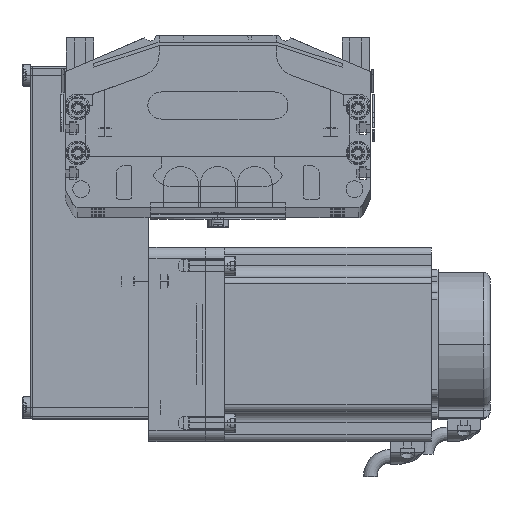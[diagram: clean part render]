
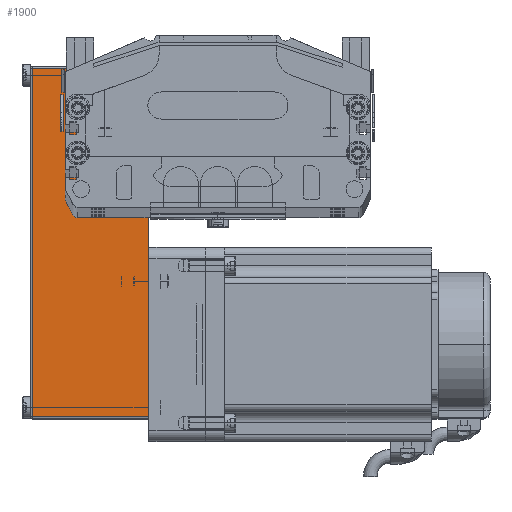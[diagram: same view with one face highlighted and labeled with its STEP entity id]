
A CAD part, top view. The second image highlights one B-rep face of the part: STEP entity #1900.
In plain terms, the highlighted planar face has unit normal (0, 0, 1) as drawn and (0, -1, 0) by its records, which use the part's own axes.
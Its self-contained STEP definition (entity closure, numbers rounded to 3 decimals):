
#1883 = EDGE_CURVE ( 'NONE', #10800, #2565, #45870, .T. ) ;
#1900 = ADVANCED_FACE ( 'NONE', ( #45926 ), #45772, .F. ) ;
#1961 = ORIENTED_EDGE ( 'NONE', *, *, #10624, .T. ) ;
#2246 = VERTEX_POINT ( 'NONE', #46713 ) ;
#2341 = EDGE_LOOP ( 'NONE', ( #1961, #2722, #2719, #2587 ) ) ;
#2565 = VERTEX_POINT ( 'NONE', #47610 ) ;
#2575 = EDGE_CURVE ( 'NONE', #2246, #10803, #49982, .T. ) ;
#2587 = ORIENTED_EDGE ( 'NONE', *, *, #2575, .T. ) ;
#2662 = EDGE_CURVE ( 'NONE', #2565, #2246, #50423, .T. ) ;
#2719 = ORIENTED_EDGE ( 'NONE', *, *, #2662, .T. ) ;
#2722 = ORIENTED_EDGE ( 'NONE', *, *, #1883, .T. ) ;
#10624 = EDGE_CURVE ( 'NONE', #10803, #10800, #78997, .T. ) ;
#10800 = VERTEX_POINT ( 'NONE', #79327 ) ;
#10803 = VERTEX_POINT ( 'NONE', #79324 ) ;
#45720 = AXIS2_PLACEMENT_3D ( 'NONE', #45880, #45850, #45849 ) ;
#45772 = PLANE ( 'NONE',  #45720 ) ;
#45838 = DIRECTION ( 'NONE',  ( 0., 0., 1. ) ) ;
#45839 = VECTOR ( 'NONE', #45838, 1000. ) ;
#45849 = DIRECTION ( 'NONE',  ( -1., 0., 0. ) ) ;
#45850 = DIRECTION ( 'NONE',  ( 0., 1., 0. ) ) ;
#45869 = CARTESIAN_POINT ( 'NONE',  ( 31., -40., 52.5 ) ) ;
#45870 = LINE ( 'NONE', #45869, #45839 ) ;
#45880 = CARTESIAN_POINT ( 'NONE',  ( 32., -40., 52.5 ) ) ;
#45926 = FACE_OUTER_BOUND ( 'NONE', #2341, .T. ) ;
#46713 = CARTESIAN_POINT ( 'NONE',  ( -123.2, -40., 51.5 ) ) ;
#47610 = CARTESIAN_POINT ( 'NONE',  ( 31., -40., 51.5 ) ) ;
#49962 = DIRECTION ( 'NONE',  ( -1., 0., 0. ) ) ;
#49977 = DIRECTION ( 'NONE',  ( 0., 0., -1. ) ) ;
#49979 = VECTOR ( 'NONE', #49977, 1000. ) ;
#49980 = CARTESIAN_POINT ( 'NONE',  ( -123.2, -40., 52.5 ) ) ;
#49982 = LINE ( 'NONE', #49980, #49979 ) ;
#50419 = VECTOR ( 'NONE', #49962, 1000. ) ;
#50420 = CARTESIAN_POINT ( 'NONE',  ( 32., -40., 51.5 ) ) ;
#50423 = LINE ( 'NONE', #50420, #50419 ) ;
#78959 = DIRECTION ( 'NONE',  ( 1., 0., 0. ) ) ;
#78960 = VECTOR ( 'NONE', #78959, 1000. ) ;
#78996 = CARTESIAN_POINT ( 'NONE',  ( 32., -40., 0. ) ) ;
#78997 = LINE ( 'NONE', #78996, #78960 ) ;
#79324 = CARTESIAN_POINT ( 'NONE',  ( -123.2, -40., 0. ) ) ;
#79327 = CARTESIAN_POINT ( 'NONE',  ( 31., -40., 0. ) ) ;
